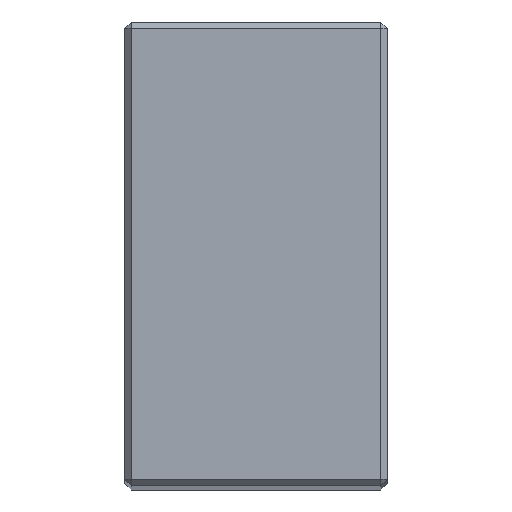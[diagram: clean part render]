
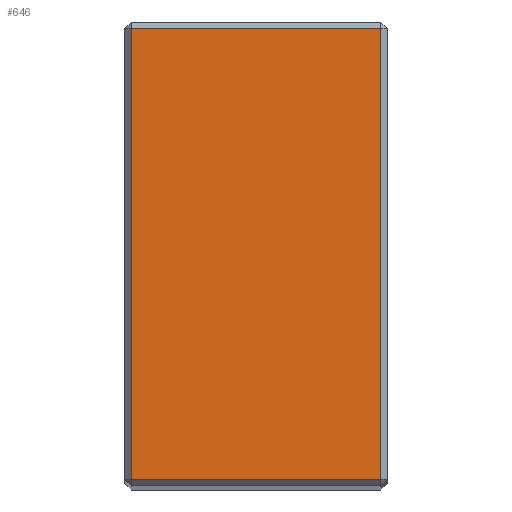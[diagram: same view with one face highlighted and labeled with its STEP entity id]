
A CAD part, top view. The second image highlights one B-rep face of the part: STEP entity #646.
In plain terms, the highlighted planar face has unit normal (0, 0, 1).
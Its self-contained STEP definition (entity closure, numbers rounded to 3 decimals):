
#11 = VERTEX_POINT ( 'NONE', #517 ) ;
#12 = DIRECTION ( 'NONE',  ( -1., 0., 0. ) ) ;
#31 = ORIENTED_EDGE ( 'NONE', *, *, #537, .T. ) ;
#100 = EDGE_CURVE ( 'NONE', #208, #577, #499, .T. ) ;
#103 = ORIENTED_EDGE ( 'NONE', *, *, #253, .T. ) ;
#125 = EDGE_CURVE ( 'NONE', #175, #11, #612, .T. ) ;
#171 = VECTOR ( 'NONE', #279, 1000. ) ;
#175 = VERTEX_POINT ( 'NONE', #237 ) ;
#187 = CARTESIAN_POINT ( 'NONE',  ( 21.5, 1., 223. ) ) ;
#197 = ORIENTED_EDGE ( 'NONE', *, *, #100, .T. ) ;
#208 = VERTEX_POINT ( 'NONE', #219 ) ;
#219 = CARTESIAN_POINT ( 'NONE',  ( -20.5, 1., 223. ) ) ;
#227 = VECTOR ( 'NONE', #642, 1000. ) ;
#232 = VECTOR ( 'NONE', #324, 1000. ) ;
#237 = CARTESIAN_POINT ( 'NONE',  ( 20.5, 75., 223. ) ) ;
#247 = ORIENTED_EDGE ( 'NONE', *, *, #125, .T. ) ;
#253 = EDGE_CURVE ( 'NONE', #577, #175, #262, .T. ) ;
#262 = LINE ( 'NONE', #300, #635 ) ;
#279 = DIRECTION ( 'NONE',  ( 1., 0., 0. ) ) ;
#284 = DIRECTION ( 'NONE',  ( 0., 1., 0. ) ) ;
#287 = CARTESIAN_POINT ( 'NONE',  ( -21.5, 75., 223. ) ) ;
#300 = CARTESIAN_POINT ( 'NONE',  ( 20.5, 76., 223. ) ) ;
#305 = CARTESIAN_POINT ( 'NONE',  ( 20.5, 1., 223. ) ) ;
#310 = AXIS2_PLACEMENT_3D ( 'NONE', #391, #328, #12 ) ;
#324 = DIRECTION ( 'NONE',  ( -1., 0., 0. ) ) ;
#328 = DIRECTION ( 'NONE',  ( 0., 0., -1. ) ) ;
#391 = CARTESIAN_POINT ( 'NONE',  ( 21.5, 76., 223. ) ) ;
#451 = FACE_OUTER_BOUND ( 'NONE', #588, .T. ) ;
#484 = CARTESIAN_POINT ( 'NONE',  ( -20.5, 76., 223. ) ) ;
#499 = LINE ( 'NONE', #187, #171 ) ;
#517 = CARTESIAN_POINT ( 'NONE',  ( -20.5, 75., 223. ) ) ;
#521 = LINE ( 'NONE', #484, #227 ) ;
#537 = EDGE_CURVE ( 'NONE', #11, #208, #521, .T. ) ;
#577 = VERTEX_POINT ( 'NONE', #305 ) ;
#582 = PLANE ( 'NONE',  #310 ) ;
#588 = EDGE_LOOP ( 'NONE', ( #247, #31, #197, #103 ) ) ;
#612 = LINE ( 'NONE', #287, #232 ) ;
#635 = VECTOR ( 'NONE', #284, 1000. ) ;
#642 = DIRECTION ( 'NONE',  ( 0., -1., 0. ) ) ;
#646 = ADVANCED_FACE ( 'NONE', ( #451 ), #582, .F. ) ;
